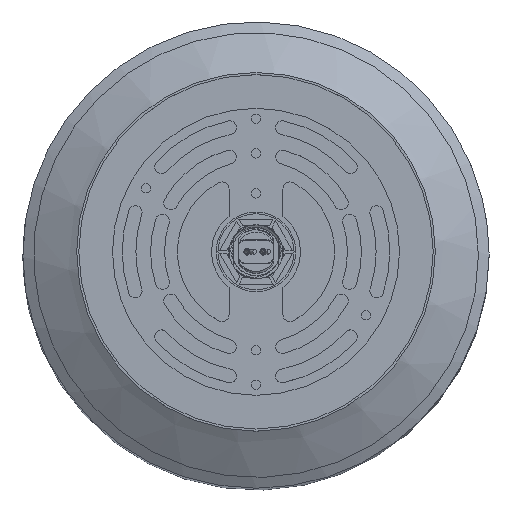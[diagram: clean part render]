
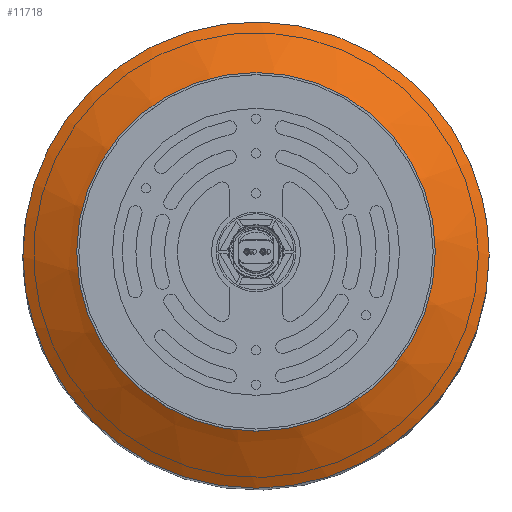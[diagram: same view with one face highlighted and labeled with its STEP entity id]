
A CAD part, top view. The second image highlights one B-rep face of the part: STEP entity #11718.
In plain terms, the highlighted conical face has half-angle 60 degrees and reference radius 53.975 mm.
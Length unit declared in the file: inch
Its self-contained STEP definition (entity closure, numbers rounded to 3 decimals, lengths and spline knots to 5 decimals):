
#286=B_SPLINE_CURVE_WITH_KNOTS('',3,(#16732,#16733,#16734,#16735,#16736,
#16737,#16738,#16739,#16740,#16741,#16742,#16743,#16744,#16745,#16746,#16747,
#16748,#16749,#16750,#16751,#16752,#16753,#16754,#16755,#16756,#16757,#16758,
#16759,#16760,#16761,#16762,#16763,#16764,#16765,#16766,#16767,#16768,#16769,
#16770,#16771,#16772,#16773,#16774),.UNSPECIFIED.,.F.,.F.,(4,2,2,2,3,2,
2,2,2,2,2,2,2,2,2,2,2,2,2,2,4),(-4.88584,-4.66432,-3.10955,
-1.55477,0.,1.55477,3.10955,4.66432,6.2191,
7.77387,9.32865,10.88342,12.4382,13.99297,
15.54774,17.10252,18.65729,20.21207,21.76684,
23.32162,24.87639),.UNSPECIFIED.);
#287=B_SPLINE_CURVE_WITH_KNOTS('',3,(#16775,#16776,#16777,#16778,#16779,
#16780,#16781,#16782,#16783,#16784,#16785,#16786,#16787,#16788,#16789,#16790,
#16791,#16792,#16793,#16794,#16795,#16796,#16797,#16798,#16799,#16800,#16801,
#16802),.UNSPECIFIED.,.F.,.F.,(4,2,2,2,2,2,2,2,2,2,2,2,2,4),(24.87639,
26.43116,27.98594,29.54071,31.09549,32.65026,
34.20504,35.75981,37.31459,38.86936,40.42413,
41.97891,43.53368,44.86694),.UNSPECIFIED.);
#1196=FACE_OUTER_BOUND('',#1908,.T.);
#1908=EDGE_LOOP('',(#8200,#8201,#8202,#8203,#8204,#8205));
#2758=LINE('',#16730,#3806);
#3806=VECTOR('',#13573,2.125);
#4857=CIRCLE('',#12483,2.);
#4858=CIRCLE('',#12484,2.);
#5266=VERTEX_POINT('',#16723);
#5267=VERTEX_POINT('',#16725);
#5268=VERTEX_POINT('',#16729);
#5269=VERTEX_POINT('',#16731);
#6429=EDGE_CURVE('',#5267,#5266,#4857,.T.);
#6430=EDGE_CURVE('',#5266,#5267,#4858,.T.);
#6431=EDGE_CURVE('',#5267,#5268,#2758,.T.);
#6432=EDGE_CURVE('',#5269,#5268,#286,.T.);
#6433=EDGE_CURVE('',#5268,#5269,#287,.T.);
#8200=ORIENTED_EDGE('',*,*,#6430,.T.);
#8201=ORIENTED_EDGE('',*,*,#6431,.T.);
#8202=ORIENTED_EDGE('',*,*,#6432,.F.);
#8203=ORIENTED_EDGE('',*,*,#6433,.F.);
#8204=ORIENTED_EDGE('',*,*,#6431,.F.);
#8205=ORIENTED_EDGE('',*,*,#6429,.T.);
#11677=CONICAL_SURFACE('',#12485,2.125,1.047);
#11718=ADVANCED_FACE('',(#1196),#11677,.T.);
#12483=AXIS2_PLACEMENT_3D('',#16726,#13567,#13568);
#12484=AXIS2_PLACEMENT_3D('',#16727,#13569,#13570);
#12485=AXIS2_PLACEMENT_3D('',#16728,#13571,#13572);
#13567=DIRECTION('center_axis',(0.,0.,
-1.));
#13568=DIRECTION('ref_axis',(0.814,0.581,0.));
#13569=DIRECTION('center_axis',(0.,0.,
-1.));
#13570=DIRECTION('ref_axis',(0.814,0.581,0.));
#13571=DIRECTION('center_axis',(0.,0.,
-1.));
#13572=DIRECTION('ref_axis',(0.814,-0.581,0.));
#13573=DIRECTION('',(-0.705,0.503,-0.5));
#16723=CARTESIAN_POINT('',(2.,0.00069,19.68202));
#16725=CARTESIAN_POINT('',(-1.62803,1.16169,19.68202));
#16726=CARTESIAN_POINT('Origin',(0.,0.,
19.68202));
#16727=CARTESIAN_POINT('Origin',(0.,0.,
19.68202));
#16728=CARTESIAN_POINT('Origin',(0.,0.,
19.60985));
#16729=CARTESIAN_POINT('',(-2.64555,1.88774,18.96033));
#16730=CARTESIAN_POINT('',(-1.72978,1.23429,19.60985));
#16731=CARTESIAN_POINT('',(3.25,0.00069,18.96033));
#16732=CARTESIAN_POINT('Ctrl Pts',(3.25,0.00069,18.96033));
#16733=CARTESIAN_POINT('Ctrl Pts',(3.25001,-0.02964,
18.96033));
#16734=CARTESIAN_POINT('Ctrl Pts',(3.24959,-0.06005,
18.96033));
#16735=CARTESIAN_POINT('Ctrl Pts',(3.24278,-0.30429,18.96033));
#16736=CARTESIAN_POINT('Ctrl Pts',(3.21536,-0.52052,
18.96033));
#16737=CARTESIAN_POINT('Ctrl Pts',(3.1178,-0.94275,
18.96033));
#16738=CARTESIAN_POINT('Ctrl Pts',(3.04759,-1.14909,18.96033));
#16739=CARTESIAN_POINT('Ctrl Pts',(2.87074,-1.53854,18.96033));
#16740=CARTESIAN_POINT('Ctrl Pts',(2.76407,-1.72165,18.96033));
#16741=CARTESIAN_POINT('Ctrl Pts',(2.64555,-1.88774,18.96033));
#16742=CARTESIAN_POINT('Ctrl Pts',(2.52704,-2.05383,18.96033));
#16743=CARTESIAN_POINT('Ctrl Pts',(2.38858,-2.21425,18.96033));
#16744=CARTESIAN_POINT('Ctrl Pts',(2.07783,-2.50816,18.96033));
#16745=CARTESIAN_POINT('Ctrl Pts',(1.90554,-2.64166,18.96033));
#16746=CARTESIAN_POINT('Ctrl Pts',(1.53799,-2.87124,18.96033));
#16747=CARTESIAN_POINT('Ctrl Pts',(1.34244,-2.9675,18.96033));
#16748=CARTESIAN_POINT('Ctrl Pts',(0.942,-3.11783,
18.96033));
#16749=CARTESIAN_POINT('Ctrl Pts',(0.7371,-3.17188,
18.96033));
#16750=CARTESIAN_POINT('Ctrl Pts',(0.33461,-3.23916,
18.96033));
#16751=CARTESIAN_POINT('Ctrl Pts',(0.12327,-3.2547,
18.96033));
#16752=CARTESIAN_POINT('Ctrl Pts',(-0.30429,-3.24278,
18.96033));
#16753=CARTESIAN_POINT('Ctrl Pts',(-0.52052,-3.21536,
18.96033));
#16754=CARTESIAN_POINT('Ctrl Pts',(-0.94275,-3.1178,
18.96033));
#16755=CARTESIAN_POINT('Ctrl Pts',(-1.14909,-3.04759,
18.96033));
#16756=CARTESIAN_POINT('Ctrl Pts',(-1.53854,-2.87074,
18.96033));
#16757=CARTESIAN_POINT('Ctrl Pts',(-1.72165,-2.76407,
18.96033));
#16758=CARTESIAN_POINT('Ctrl Pts',(-2.05383,-2.52704,
18.96033));
#16759=CARTESIAN_POINT('Ctrl Pts',(-2.21425,-2.38858,
18.96033));
#16760=CARTESIAN_POINT('Ctrl Pts',(-2.50816,-2.07783,
18.96033));
#16761=CARTESIAN_POINT('Ctrl Pts',(-2.64166,-1.90554,
18.96033));
#16762=CARTESIAN_POINT('Ctrl Pts',(-2.87124,-1.53799,
18.96033));
#16763=CARTESIAN_POINT('Ctrl Pts',(-2.9675,-1.34244,18.96033));
#16764=CARTESIAN_POINT('Ctrl Pts',(-3.11783,-0.942,
18.96033));
#16765=CARTESIAN_POINT('Ctrl Pts',(-3.17188,-0.7371,
18.96033));
#16766=CARTESIAN_POINT('Ctrl Pts',(-3.23916,-0.33461,
18.96033));
#16767=CARTESIAN_POINT('Ctrl Pts',(-3.2547,-0.12327,
18.96033));
#16768=CARTESIAN_POINT('Ctrl Pts',(-3.24278,0.30429,18.96033));
#16769=CARTESIAN_POINT('Ctrl Pts',(-3.21536,0.52052,
18.96033));
#16770=CARTESIAN_POINT('Ctrl Pts',(-3.1178,0.94275,
18.96033));
#16771=CARTESIAN_POINT('Ctrl Pts',(-3.04759,1.14909,18.96033));
#16772=CARTESIAN_POINT('Ctrl Pts',(-2.87074,1.53854,18.96033));
#16773=CARTESIAN_POINT('Ctrl Pts',(-2.76407,1.72165,18.96033));
#16774=CARTESIAN_POINT('Ctrl Pts',(-2.64555,1.88774,18.96033));
#16775=CARTESIAN_POINT('Ctrl Pts',(-2.64555,1.88774,18.96033));
#16776=CARTESIAN_POINT('Ctrl Pts',(-2.52704,2.05383,18.96033));
#16777=CARTESIAN_POINT('Ctrl Pts',(-2.38858,2.21425,18.96033));
#16778=CARTESIAN_POINT('Ctrl Pts',(-2.07783,2.50816,18.96033));
#16779=CARTESIAN_POINT('Ctrl Pts',(-1.90554,2.64166,18.96033));
#16780=CARTESIAN_POINT('Ctrl Pts',(-1.53799,2.87124,18.96033));
#16781=CARTESIAN_POINT('Ctrl Pts',(-1.34244,2.9675,18.96033));
#16782=CARTESIAN_POINT('Ctrl Pts',(-0.942,3.11783,
18.96033));
#16783=CARTESIAN_POINT('Ctrl Pts',(-0.7371,3.17188,
18.96033));
#16784=CARTESIAN_POINT('Ctrl Pts',(-0.33461,3.23916,18.96033));
#16785=CARTESIAN_POINT('Ctrl Pts',(-0.12327,3.2547,
18.96033));
#16786=CARTESIAN_POINT('Ctrl Pts',(0.30429,3.24278,18.96033));
#16787=CARTESIAN_POINT('Ctrl Pts',(0.52052,3.21536,18.96033));
#16788=CARTESIAN_POINT('Ctrl Pts',(0.94275,3.1178,18.96033));
#16789=CARTESIAN_POINT('Ctrl Pts',(1.14909,3.04759,18.96033));
#16790=CARTESIAN_POINT('Ctrl Pts',(1.53854,2.87074,18.96033));
#16791=CARTESIAN_POINT('Ctrl Pts',(1.72165,2.76407,18.96033));
#16792=CARTESIAN_POINT('Ctrl Pts',(2.05383,2.52704,18.96033));
#16793=CARTESIAN_POINT('Ctrl Pts',(2.21425,2.38858,18.96033));
#16794=CARTESIAN_POINT('Ctrl Pts',(2.50816,2.07783,18.96033));
#16795=CARTESIAN_POINT('Ctrl Pts',(2.64166,1.90554,18.96033));
#16796=CARTESIAN_POINT('Ctrl Pts',(2.87124,1.53799,18.96033));
#16797=CARTESIAN_POINT('Ctrl Pts',(2.9675,1.34244,18.96033));
#16798=CARTESIAN_POINT('Ctrl Pts',(3.11783,0.942,18.96033));
#16799=CARTESIAN_POINT('Ctrl Pts',(3.17188,0.7371,18.96033));
#16800=CARTESIAN_POINT('Ctrl Pts',(3.23437,0.36328,18.96033));
#16801=CARTESIAN_POINT('Ctrl Pts',(3.24996,0.18329,18.96033));
#16802=CARTESIAN_POINT('Ctrl Pts',(3.25,0.00069,18.96033));
